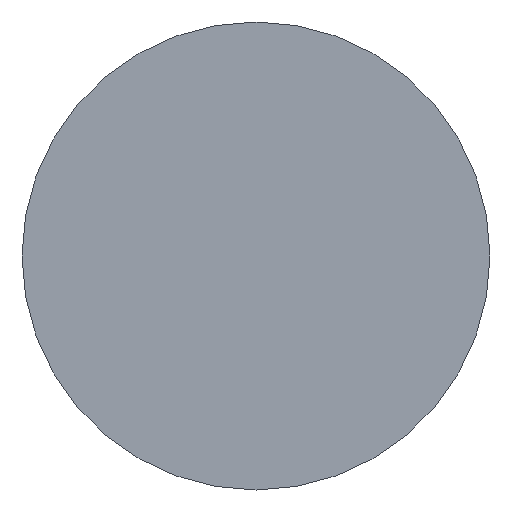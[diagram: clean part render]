
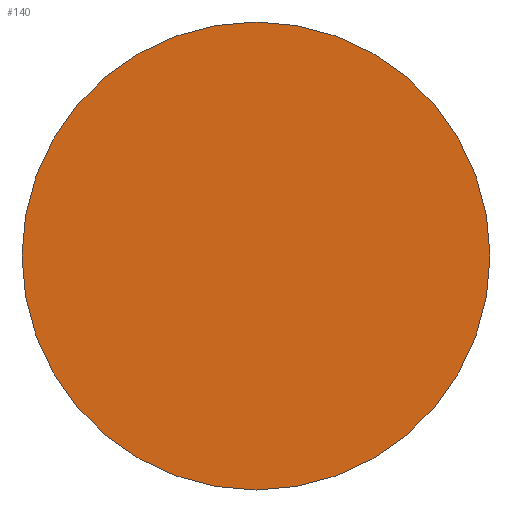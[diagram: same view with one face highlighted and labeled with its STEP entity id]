
A CAD part, front view. The second image highlights one B-rep face of the part: STEP entity #140.
In plain terms, the highlighted planar face has unit normal (0, -1, 0).
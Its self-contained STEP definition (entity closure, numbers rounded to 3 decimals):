
#31 = CYLINDRICAL_SURFACE('',#32,9.3);
#32 = AXIS2_PLACEMENT_3D('',#33,#34,#35);
#33 = CARTESIAN_POINT('',(0.,-22.,239.465));
#34 = DIRECTION('',(0.,1.,0.));
#35 = DIRECTION('',(0.,-0.,1.));
#56 = VERTEX_POINT('',#57);
#57 = CARTESIAN_POINT('',(0.,-22.,248.765));
#78 = EDGE_CURVE('',#56,#56,#79,.T.);
#79 = SURFACE_CURVE('',#80,(#85,#92),.PCURVE_S1.);
#80 = CIRCLE('',#81,9.3);
#81 = AXIS2_PLACEMENT_3D('',#82,#83,#84);
#82 = CARTESIAN_POINT('',(0.,-22.,239.465));
#83 = DIRECTION('',(0.,1.,0.));
#84 = DIRECTION('',(0.,-0.,1.));
#85 = PCURVE('',#31,#86);
#86 = DEFINITIONAL_REPRESENTATION('',(#87),#91);
#87 = LINE('',#88,#89);
#88 = CARTESIAN_POINT('',(0.,0.));
#89 = VECTOR('',#90,1.);
#90 = DIRECTION('',(1.,0.));
#91 = ( GEOMETRIC_REPRESENTATION_CONTEXT(2) 
PARAMETRIC_REPRESENTATION_CONTEXT() REPRESENTATION_CONTEXT('2D SPACE',''
  ) );
#92 = PCURVE('',#93,#98);
#93 = PLANE('',#94);
#94 = AXIS2_PLACEMENT_3D('',#95,#96,#97);
#95 = CARTESIAN_POINT('',(0.,-22.,239.465));
#96 = DIRECTION('',(0.,1.,0.));
#97 = DIRECTION('',(0.,-0.,1.));
#98 = DEFINITIONAL_REPRESENTATION('',(#99),#103);
#99 = CIRCLE('',#100,9.3);
#100 = AXIS2_PLACEMENT_2D('',#101,#102);
#101 = CARTESIAN_POINT('',(0.,0.));
#102 = DIRECTION('',(1.,0.));
#103 = ( GEOMETRIC_REPRESENTATION_CONTEXT(2) 
PARAMETRIC_REPRESENTATION_CONTEXT() REPRESENTATION_CONTEXT('2D SPACE',''
  ) );
#140 = ADVANCED_FACE('',(#141),#93,.F.);
#141 = FACE_BOUND('',#142,.T.);
#142 = EDGE_LOOP('',(#143));
#143 = ORIENTED_EDGE('',*,*,#78,.F.);
